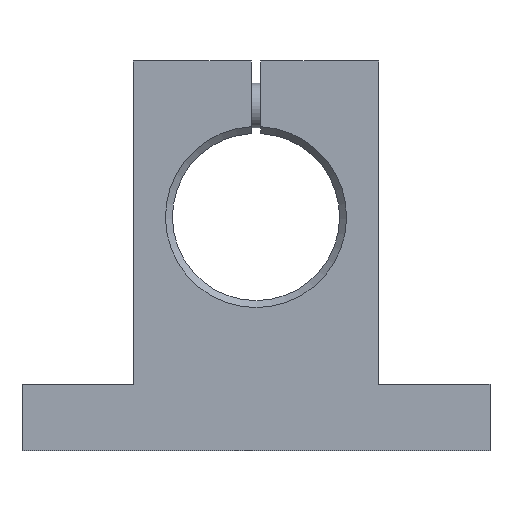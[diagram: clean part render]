
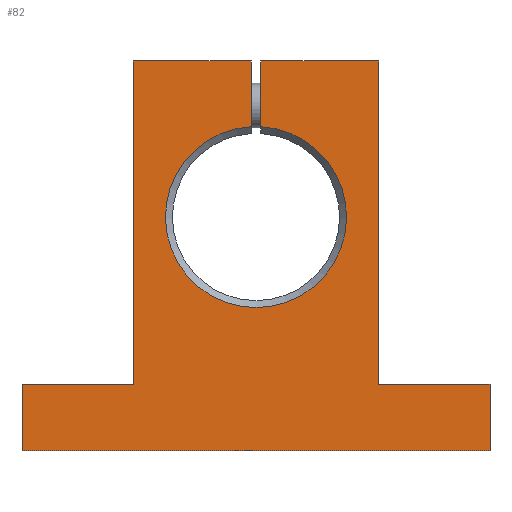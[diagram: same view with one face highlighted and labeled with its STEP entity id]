
A CAD part, front view. The second image highlights one B-rep face of the part: STEP entity #82.
In plain terms, the highlighted planar face has unit normal (0, -1, 0).
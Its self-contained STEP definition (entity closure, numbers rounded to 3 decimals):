
#82 = ADVANCED_FACE( '', ( #189 ), #190, .T. );
#189 = FACE_OUTER_BOUND( '', #333, .T. );
#190 = PLANE( '', #334 );
#333 = EDGE_LOOP( '', ( #517, #518, #519, #520, #521, #522, #523, #524, #525, #526, #527, #528 ) );
#334 = AXIS2_PLACEMENT_3D( '', #529, #530, #531 );
#517 = ORIENTED_EDGE( '', *, *, #790, .F. );
#518 = ORIENTED_EDGE( '', *, *, #791, .T. );
#519 = ORIENTED_EDGE( '', *, *, #792, .F. );
#520 = ORIENTED_EDGE( '', *, *, #778, .F. );
#521 = ORIENTED_EDGE( '', *, *, #793, .F. );
#522 = ORIENTED_EDGE( '', *, *, #794, .F. );
#523 = ORIENTED_EDGE( '', *, *, #761, .F. );
#524 = ORIENTED_EDGE( '', *, *, #795, .F. );
#525 = ORIENTED_EDGE( '', *, *, #796, .F. );
#526 = ORIENTED_EDGE( '', *, *, #797, .F. );
#527 = ORIENTED_EDGE( '', *, *, #783, .F. );
#528 = ORIENTED_EDGE( '', *, *, #798, .F. );
#529 = CARTESIAN_POINT( '', ( 0., -14., 0. ) );
#530 = DIRECTION( '', ( 0., -1., 0. ) );
#531 = DIRECTION( '', ( 1., 0., 0. ) );
#761 = EDGE_CURVE( '', #888, #889, #890, .T. );
#778 = EDGE_CURVE( '', #917, #918, #919, .T. );
#783 = EDGE_CURVE( '', #926, #927, #928, .T. );
#790 = EDGE_CURVE( '', #938, #939, #940, .T. );
#791 = EDGE_CURVE( '', #938, #941, #942, .F. );
#792 = EDGE_CURVE( '', #918, #941, #943, .T. );
#793 = EDGE_CURVE( '', #944, #917, #945, .T. );
#794 = EDGE_CURVE( '', #889, #944, #946, .T. );
#795 = EDGE_CURVE( '', #947, #888, #948, .T. );
#796 = EDGE_CURVE( '', #949, #947, #950, .T. );
#797 = EDGE_CURVE( '', #927, #949, #951, .T. );
#798 = EDGE_CURVE( '', #939, #926, #952, .T. );
#888 = VERTEX_POINT( '', #1073 );
#889 = VERTEX_POINT( '', #1074 );
#890 = LINE( '', #1075, #1076 );
#917 = VERTEX_POINT( '', #1111 );
#918 = VERTEX_POINT( '', #1112 );
#919 = LINE( '', #1113, #1114 );
#926 = VERTEX_POINT( '', #1124 );
#927 = VERTEX_POINT( '', #1125 );
#928 = LINE( '', #1126, #1127 );
#938 = VERTEX_POINT( '', #1140 );
#939 = VERTEX_POINT( '', #1141 );
#940 = LINE( '', #1142, #1143 );
#941 = VERTEX_POINT( '', #1144 );
#942 = CIRCLE( '', #1145, 16.25 );
#943 = LINE( '', #1146, #1147 );
#944 = VERTEX_POINT( '', #1148 );
#945 = LINE( '', #1149, #1150 );
#946 = LINE( '', #1151, #1152 );
#947 = VERTEX_POINT( '', #1153 );
#948 = LINE( '', #1154, #1155 );
#949 = VERTEX_POINT( '', #1156 );
#950 = LINE( '', #1157, #1158 );
#951 = LINE( '', #1159, #1160 );
#952 = LINE( '', #1161, #1162 );
#1073 = CARTESIAN_POINT( '', ( -42., -14., -42. ) );
#1074 = CARTESIAN_POINT( '', ( -42., -14., -30. ) );
#1075 = CARTESIAN_POINT( '', ( -42., -14., -30. ) );
#1076 = VECTOR( '', #1288, 1000. );
#1111 = CARTESIAN_POINT( '', ( -22., -14., 28. ) );
#1112 = CARTESIAN_POINT( '', ( -0.84, -14., 28. ) );
#1113 = CARTESIAN_POINT( '', ( -0.84, -14., 28. ) );
#1114 = VECTOR( '', #1309, 1000. );
#1124 = CARTESIAN_POINT( '', ( 22., -14., 28. ) );
#1125 = CARTESIAN_POINT( '', ( 22., -14., -30. ) );
#1126 = CARTESIAN_POINT( '', ( 22., -14., -30. ) );
#1127 = VECTOR( '', #1313, 1000. );
#1140 = CARTESIAN_POINT( '', ( 0.84, -14., 16.228 ) );
#1141 = CARTESIAN_POINT( '', ( 0.84, -14., 28. ) );
#1142 = CARTESIAN_POINT( '', ( 0.84, -14., 28. ) );
#1143 = VECTOR( '', #1320, 1000. );
#1144 = CARTESIAN_POINT( '', ( -0.84, -14., 16.228 ) );
#1145 = AXIS2_PLACEMENT_3D( '', #1321, #1322, #1323 );
#1146 = CARTESIAN_POINT( '', ( -0.84, -14., 14.976 ) );
#1147 = VECTOR( '', #1324, 1000. );
#1148 = CARTESIAN_POINT( '', ( -22., -14., -30. ) );
#1149 = CARTESIAN_POINT( '', ( -22., -14., 28. ) );
#1150 = VECTOR( '', #1325, 1000. );
#1151 = CARTESIAN_POINT( '', ( -22., -14., -30. ) );
#1152 = VECTOR( '', #1326, 1000. );
#1153 = CARTESIAN_POINT( '', ( 42., -14., -42. ) );
#1154 = CARTESIAN_POINT( '', ( -42., -14., -42. ) );
#1155 = VECTOR( '', #1327, 1000. );
#1156 = CARTESIAN_POINT( '', ( 42., -14., -30. ) );
#1157 = CARTESIAN_POINT( '', ( 42., -14., -42. ) );
#1158 = VECTOR( '', #1328, 1000. );
#1159 = CARTESIAN_POINT( '', ( 42., -14., -30. ) );
#1160 = VECTOR( '', #1329, 1000. );
#1161 = CARTESIAN_POINT( '', ( 22., -14., 28. ) );
#1162 = VECTOR( '', #1330, 1000. );
#1288 = DIRECTION( '', ( 0., 0., 1. ) );
#1309 = DIRECTION( '', ( 1., 0., 0. ) );
#1313 = DIRECTION( '', ( 0., 0., -1. ) );
#1320 = DIRECTION( '', ( 0., 0., 1. ) );
#1321 = CARTESIAN_POINT( '', ( 0., -14., 0. ) );
#1322 = DIRECTION( '', ( 0., -1., 0. ) );
#1323 = DIRECTION( '', ( 0., 0., -1. ) );
#1324 = DIRECTION( '', ( 0., 0., -1. ) );
#1325 = DIRECTION( '', ( 0., 0., 1. ) );
#1326 = DIRECTION( '', ( 1., 0., 0. ) );
#1327 = DIRECTION( '', ( -1., 0., 0. ) );
#1328 = DIRECTION( '', ( 0., 0., -1. ) );
#1329 = DIRECTION( '', ( 1., 0., 0. ) );
#1330 = DIRECTION( '', ( 1., 0., 0. ) );
